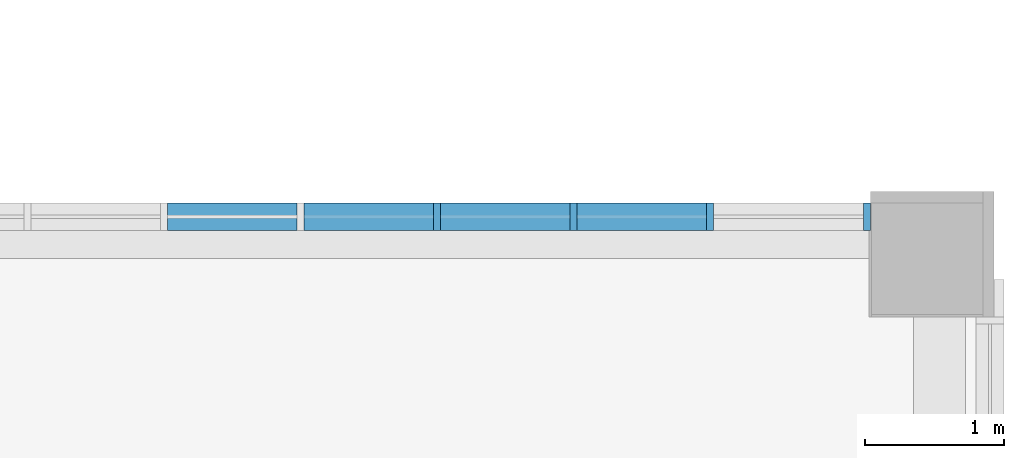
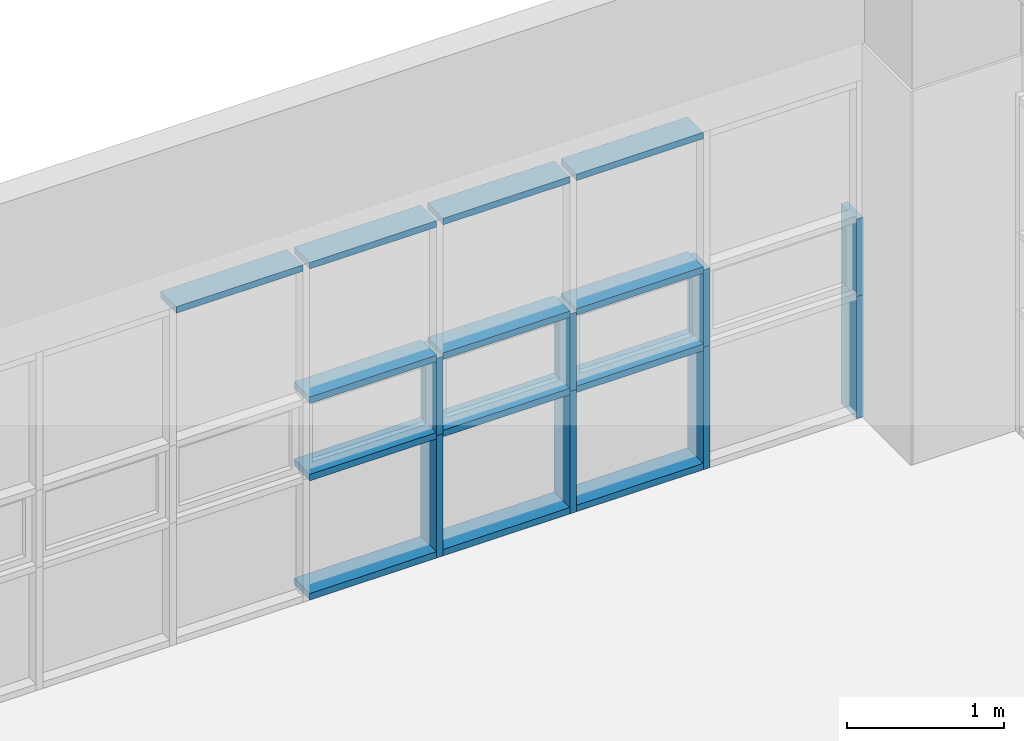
# One storey, part 26 of 76: 21 members, 1 element without a shape of its own.
"""IFC2X3 building model written with IfcOpenShell, lengths in millimetres."""

from ifc_helpers import new_model, entity, si_unit, converted_unit, derived_unit, direction, frame, origin, origin_2d_with_axis, place, context, subcontext, project, spatial, rectangle, extrude, source, transform, mapped, material, type_object, type_shapes, element, aggregate, save


model = new_model("IFC2X3")

# Units and contexts
model_context = context("Model", 3, precision=0.01, world=origin(), true_north=direction((6.123031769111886e-17, 1.0)))
body_context = subcontext(model_context, "Body", "Model", "MODEL_VIEW")
ifc_project = project(units=[si_unit("LENGTHUNIT", "METRE", prefix="MILLI"), si_unit("AREAUNIT", "SQUARE_METRE"), si_unit("VOLUMEUNIT", "CUBIC_METRE"), converted_unit("PLANEANGLEUNIT", "DEGREE", entity("IfcRatioMeasure", 0.017453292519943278), si_unit("PLANEANGLEUNIT", "RADIAN"), dimensions=[0, 0, 0, 0, 0, 0, 0]), si_unit("MASSUNIT", "GRAM", prefix="KILO"), derived_unit("MASSDENSITYUNIT", [(si_unit("MASSUNIT", "GRAM", prefix="KILO"), 1), (si_unit("LENGTHUNIT", "METRE"), -3)]), derived_unit("MOMENTOFINERTIAUNIT", [(si_unit("LENGTHUNIT", "METRE"), 4)]), si_unit("TIMEUNIT", "SECOND"), si_unit("FREQUENCYUNIT", "HERTZ"), si_unit("THERMODYNAMICTEMPERATUREUNIT", "DEGREE_CELSIUS"), derived_unit("THERMALTRANSMITTANCEUNIT", [(si_unit("MASSUNIT", "GRAM", prefix="KILO"), 1), (si_unit("THERMODYNAMICTEMPERATUREUNIT", "KELVIN"), -1), (si_unit("TIMEUNIT", "SECOND"), -3)]), derived_unit("VOLUMETRICFLOWRATEUNIT", [(si_unit("LENGTHUNIT", "METRE"), 3), (si_unit("TIMEUNIT", "SECOND"), -1)]), derived_unit("MASSFLOWRATEUNIT", [(si_unit("MASSUNIT", "GRAM", prefix="KILO"), 1), (si_unit("TIMEUNIT", "SECOND"), -1)]), derived_unit("ROTATIONALFREQUENCYUNIT", [(si_unit("TIMEUNIT", "SECOND"), -1)]), si_unit("ELECTRICCURRENTUNIT", "AMPERE"), si_unit("ELECTRICVOLTAGEUNIT", "VOLT"), si_unit("POWERUNIT", "WATT"), si_unit("FORCEUNIT", "NEWTON", prefix="KILO"), si_unit("ILLUMINANCEUNIT", "LUX"), si_unit("LUMINOUSFLUXUNIT", "LUMEN"), si_unit("LUMINOUSINTENSITYUNIT", "CANDELA"), derived_unit("USERDEFINED", [(si_unit("MASSUNIT", "GRAM", prefix="KILO"), -1), (si_unit("LENGTHUNIT", "METRE"), -2), (si_unit("TIMEUNIT", "SECOND"), 3), (si_unit("LUMINOUSFLUXUNIT", "LUMEN"), 1)]), derived_unit("SOUNDPOWERUNIT", [(si_unit("MASSUNIT", "GRAM", prefix="KILO"), 1), (si_unit("LENGTHUNIT", "METRE"), 2), (si_unit("TIMEUNIT", "SECOND"), -3)]), derived_unit("SOUNDPRESSUREUNIT", [(si_unit("MASSUNIT", "GRAM", prefix="KILO"), 1), (si_unit("LENGTHUNIT", "METRE"), -1), (si_unit("TIMEUNIT", "SECOND"), -2)]), derived_unit("LINEARVELOCITYUNIT", [(si_unit("LENGTHUNIT", "METRE"), 1), (si_unit("TIMEUNIT", "SECOND"), -1)]), si_unit("PRESSUREUNIT", "PASCAL"), derived_unit("USERDEFINED", [(si_unit("LENGTHUNIT", "METRE"), -2), (si_unit("MASSUNIT", "GRAM", prefix="KILO"), 1), (si_unit("TIMEUNIT", "SECOND"), -2)]), derived_unit("LINEARFORCEUNIT", [(si_unit("MASSUNIT", "GRAM", prefix="KILO"), 1), (si_unit("LENGTHUNIT", "METRE"), 1), (si_unit("TIMEUNIT", "SECOND"), -2), (si_unit("LENGTHUNIT", "METRE"), -1)]), derived_unit("PLANARFORCEUNIT", [(si_unit("MASSUNIT", "GRAM", prefix="KILO"), 1), (si_unit("LENGTHUNIT", "METRE"), 1), (si_unit("TIMEUNIT", "SECOND"), -2), (si_unit("LENGTHUNIT", "METRE"), -2)])], contexts=[model_context])

# Site, building, storey
site_placement = place(None, frame((-14167.972527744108, -657.2125860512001, 0.0)))
site = spatial("IfcSite", under=ifc_project, at=site_placement, Name="Default", CompositionType="ELEMENT")
building_placement = place(site_placement, origin())
building = spatial("IfcBuilding", under=site, at=building_placement, Name="Sample Building", CompositionType="ELEMENT")
storey_placement = place(building_placement, frame((0.0, 0.0, 9300.0)))
storey = spatial("IfcBuildingStorey", under=building, at=storey_placement, Name="지상 3층", CompositionType="ELEMENT", Elevation=9300.000000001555)

# Curtain wall, members
curtain_wall_type = type_object("IfcCurtainWallType", Name="커튼월:CW112-스테인리스 스틸 커튼월", PredefinedType="NOTDEFINED")
curtain_wall_placement = place(storey_placement, frame((0.0, 0.0, -9300.0)))
curtain_wall = element("IfcCurtainWall", 1, at=curtain_wall_placement, inside=storey, type_object=curtain_wall_type, Name="커튼월:CW112-스테인리스 스틸 커튼월", ObjectType="커튼월:CW112-스테인리스 스틸 커튼월")
ifc_material = material(Name="<Unnamed>")
member_type_1 = type_object("IfcMemberType", Name="직사각형 멀리언:CW200-직사각형 멀리언 50x200mm", PredefinedType="MULLION", material=ifc_material)
shared_shape_1 = source(origin(), body_context, "Body", "SweptSolid", [
    extrude(rectangle(XDim=200.0, YDim=50.0, at=origin_2d_with_axis()), frame((-25.0, 0.0, -600.0), z_axis=(0.0, 0.0, 1.0), x_axis=(0.0, -1.0, 0.0)), (0.0, 0.0, 1.0), 600.0),
])
type_shapes(member_type_1, [shared_shape_1])
member_1_placement = place(curtain_wall_placement, frame((50658.981214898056, 29157.212295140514, 10930.0)))
member_1 = element("IfcMember", 2, at=member_1_placement, type_object=member_type_1, material=ifc_material, Name="직사각형 멀리언:CW200-직사각형 멀리언 50x200mm", ObjectType="직사각형 멀리언:CW200-직사각형 멀리언 50x200mm", context=body_context, shape_type="MappedRepresentation", body=[
    mapped(shared_shape_1, transform((0.0, 0.0, 0.0), scale=1.0)),
])
member_type_2 = type_object("IfcMemberType", Name="직사각형 멀리언:CW200-직사각형 멀리언 50x200mm", PredefinedType="MULLION", material=ifc_material)
shared_shape_2 = source(origin(), body_context, "Body", "SweptSolid", [
    extrude(rectangle(XDim=200.0, YDim=50.0, at=origin_2d_with_axis()), frame((0.0, 0.0, -600.0), z_axis=(0.0, 0.0, 1.0), x_axis=(0.0, -1.0, 0.0)), (0.0, 0.0, 1.0), 600.0),
])
type_shapes(member_type_2, [shared_shape_2])
member_2_placement = place(curtain_wall_placement, frame((49507.96556020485, 29157.212295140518, 10330.0), z_axis=(0.0, 0.0, -1.0), x_axis=(-1.0, 0.0, 0.0)))
member_2 = element("IfcMember", 3, at=member_2_placement, type_object=member_type_2, material=ifc_material, Name="직사각형 멀리언:CW200-직사각형 멀리언 50x200mm", ObjectType="직사각형 멀리언:CW200-직사각형 멀리언 50x200mm", context=body_context, shape_type="MappedRepresentation", body=[
    mapped(shared_shape_2, transform((0.0, 0.0, 0.0), scale=1.0)),
])
member_3_placement = place(curtain_wall_placement, frame((48527.96642584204, 29157.212295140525, 10330.0), z_axis=(0.0, 0.0, -1.0), x_axis=(-1.0, 0.0, 0.0)))
member_3 = element("IfcMember", 4, at=member_3_placement, type_object=member_type_2, material=ifc_material, Name="직사각형 멀리언:CW200-직사각형 멀리언 50x200mm", ObjectType="직사각형 멀리언:CW200-직사각형 멀리언 50x200mm", context=body_context, shape_type="MappedRepresentation", body=[
    mapped(shared_shape_2, transform((0.0, 0.0, 0.0), scale=1.0)),
])
member_4_placement = place(curtain_wall_placement, frame((47547.967291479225, 29157.212295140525, 10330.0), z_axis=(0.0, 0.0, -1.0), x_axis=(-1.0, 0.0, 0.0)))
member_4 = element("IfcMember", 5, at=member_4_placement, type_object=member_type_2, material=ifc_material, Name="직사각형 멀리언:CW200-직사각형 멀리언 50x200mm", ObjectType="직사각형 멀리언:CW200-직사각형 멀리언 50x200mm", context=body_context, shape_type="MappedRepresentation", body=[
    mapped(shared_shape_2, transform((0.0, 0.0, 0.0), scale=1.0)),
])
member_type_3 = type_object("IfcMemberType", Name="직사각형 멀리언:CW200-직사각형 멀리언 50x200mm", PredefinedType="MULLION", material=ifc_material)
shared_shape_3 = source(origin(), body_context, "Body", "SweptSolid", [
    extrude(rectangle(XDim=200.0, YDim=50.0, at=origin_2d_with_axis()), frame((0.0, 0.0, -950.0), z_axis=(0.0, 0.0, 1.0), x_axis=(0.0, -1.0, 0.0)), (0.0, 0.0, 1.0), 949.9999999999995),
])
type_shapes(member_type_3, [shared_shape_3])
member_5_placement = place(curtain_wall_placement, frame((49507.96556020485, 29157.212295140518, 9380.0), z_axis=(0.0, 0.0, -1.0), x_axis=(-1.0, 0.0, 0.0)))
member_5 = element("IfcMember", 6, at=member_5_placement, type_object=member_type_3, material=ifc_material, Name="직사각형 멀리언:CW200-직사각형 멀리언 50x200mm", ObjectType="직사각형 멀리언:CW200-직사각형 멀리언 50x200mm", context=body_context, shape_type="MappedRepresentation", body=[
    mapped(shared_shape_3, transform((0.0, 0.0, 0.0), scale=1.0)),
])
member_6_placement = place(curtain_wall_placement, frame((48527.96642584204, 29157.212295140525, 9380.0), z_axis=(0.0, 0.0, -1.0), x_axis=(-1.0, 0.0, 0.0)))
member_6 = element("IfcMember", 7, at=member_6_placement, type_object=member_type_3, material=ifc_material, Name="직사각형 멀리언:CW200-직사각형 멀리언 50x200mm", ObjectType="직사각형 멀리언:CW200-직사각형 멀리언 50x200mm", context=body_context, shape_type="MappedRepresentation", body=[
    mapped(shared_shape_3, transform((0.0, 0.0, 0.0), scale=1.0)),
])
member_7_placement = place(curtain_wall_placement, frame((47547.967291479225, 29157.212295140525, 9380.0), z_axis=(0.0, 0.0, -1.0), x_axis=(-1.0, 0.0, 0.0)))
member_7 = element("IfcMember", 8, at=member_7_placement, type_object=member_type_3, material=ifc_material, Name="직사각형 멀리언:CW200-직사각형 멀리언 50x200mm", ObjectType="직사각형 멀리언:CW200-직사각형 멀리언 50x200mm", context=body_context, shape_type="MappedRepresentation", body=[
    mapped(shared_shape_3, transform((0.0, 0.0, 0.0), scale=1.0)),
])
member_type_4 = type_object("IfcMemberType", Name="직사각형 멀리언:CW200-직사각형 멀리언 50x200mm", PredefinedType="MULLION", material=ifc_material)
shared_shape_4 = source(origin(), body_context, "Body", "SweptSolid", [
    extrude(rectangle(XDim=200.0, YDim=50.0, at=origin_2d_with_axis()), frame((-25.0, 0.0, -950.0), z_axis=(0.0, 0.0, 1.0), x_axis=(0.0, -1.0, 0.0)), (0.0, 0.0, 1.0), 950.0000000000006),
])
type_shapes(member_type_4, [shared_shape_4])
member_8_placement = place(curtain_wall_placement, frame((50658.981214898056, 29157.212295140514, 10330.0)))
member_8 = element("IfcMember", 9, at=member_8_placement, type_object=member_type_4, material=ifc_material, Name="직사각형 멀리언:CW200-직사각형 멀리언 50x200mm", ObjectType="직사각형 멀리언:CW200-직사각형 멀리언 50x200mm", context=body_context, shape_type="MappedRepresentation", body=[
    mapped(shared_shape_4, transform((0.0, 0.0, 0.0), scale=1.0)),
])
member_type_5 = type_object("IfcMemberType", Name="직사각형 멀리언:CW200-직사각형 멀리언 50x200mm", PredefinedType="MULLION", material=ifc_material)
shared_shape_5 = source(origin(), body_context, "Body", "SweptSolid", [
    extrude(rectangle(XDim=200.0, YDim=50.0, at=origin_2d_with_axis()), frame((-25.0, 0.0, -929.9991343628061), z_axis=(0.0, 0.0, 1.0), x_axis=(0.0, -1.0, 0.0)), (0.0, 0.0, 1.0), 929.9991343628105),
])
type_shapes(member_type_5, [shared_shape_5])
member_9_placement = place(curtain_wall_placement, frame((49482.965560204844, 29157.212295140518, 9380.0), z_axis=(1.0, 0.0, 0.0), x_axis=(0.0, 0.0, -1.0)))
member_9 = element("IfcMember", 10, at=member_9_placement, type_object=member_type_5, material=ifc_material, Name="직사각형 멀리언:CW200-직사각형 멀리언 50x200mm", ObjectType="직사각형 멀리언:CW200-직사각형 멀리언 50x200mm", context=body_context, shape_type="MappedRepresentation", body=[
    mapped(shared_shape_5, transform((0.0, 0.0, 0.0), scale=1.0)),
])
member_10_placement = place(curtain_wall_placement, frame((48502.96642584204, 29157.212295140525, 9380.0), z_axis=(1.0, 0.0, 0.0), x_axis=(0.0, 0.0, -1.0)))
member_10 = element("IfcMember", 11, at=member_10_placement, type_object=member_type_5, material=ifc_material, Name="직사각형 멀리언:CW200-직사각형 멀리언 50x200mm", ObjectType="직사각형 멀리언:CW200-직사각형 멀리언 50x200mm", context=body_context, shape_type="MappedRepresentation", body=[
    mapped(shared_shape_5, transform((0.0, 0.0, 0.0), scale=1.0)),
])
member_11_placement = place(curtain_wall_placement, frame((47522.967291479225, 29157.212295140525, 9380.0), z_axis=(1.0, 0.0, 0.0), x_axis=(0.0, 0.0, -1.0)))
member_11 = element("IfcMember", 12, at=member_11_placement, type_object=member_type_5, material=ifc_material, Name="직사각형 멀리언:CW200-직사각형 멀리언 50x200mm", ObjectType="직사각형 멀리언:CW200-직사각형 멀리언 50x200mm", context=body_context, shape_type="MappedRepresentation", body=[
    mapped(shared_shape_5, transform((0.0, 0.0, 0.0), scale=1.0)),
])
member_type_6 = type_object("IfcMemberType", Name="직사각형 멀리언:CW200-직사각형 멀리언 50x200mm", PredefinedType="MULLION", material=ifc_material)
shared_shape_6 = source(origin(), body_context, "Body", "SweptSolid", [
    extrude(rectangle(XDim=200.0, YDim=50.0, at=origin_2d_with_axis()), frame((0.0, 0.0, -929.9991343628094), z_axis=(0.0, 0.0, 1.0), x_axis=(0.0, -1.0, 0.0)), (0.0, 0.0, 1.0), 929.9991343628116),
])
type_shapes(member_type_6, [shared_shape_6])
member_12_placement = place(curtain_wall_placement, frame((48552.96642584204, 29157.212295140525, 10330.0), z_axis=(-1.0, 0.0, 0.0), x_axis=(0.0, 0.0, 1.0)))
member_12 = element("IfcMember", 13, at=member_12_placement, type_object=member_type_6, material=ifc_material, Name="직사각형 멀리언:CW200-직사각형 멀리언 50x200mm", ObjectType="직사각형 멀리언:CW200-직사각형 멀리언 50x200mm", context=body_context, shape_type="MappedRepresentation", body=[
    mapped(shared_shape_6, transform((0.0, 0.0, 0.0), scale=1.0)),
])
member_13_placement = place(curtain_wall_placement, frame((48552.96642584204, 29157.212295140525, 10930.0), z_axis=(-1.0, 0.0, 0.0), x_axis=(0.0, 0.0, 1.0)))
member_13 = element("IfcMember", 14, at=member_13_placement, type_object=member_type_6, material=ifc_material, Name="직사각형 멀리언:CW200-직사각형 멀리언 50x200mm", ObjectType="직사각형 멀리언:CW200-직사각형 멀리언 50x200mm", context=body_context, shape_type="MappedRepresentation", body=[
    mapped(shared_shape_6, transform((0.0, 0.0, 0.0), scale=1.0)),
])
member_14_placement = place(curtain_wall_placement, frame((47572.96729147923, 29157.212295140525, 10330.0), z_axis=(-1.0, 0.0, 0.0), x_axis=(0.0, 0.0, 1.0)))
member_14 = element("IfcMember", 15, at=member_14_placement, type_object=member_type_6, material=ifc_material, Name="직사각형 멀리언:CW200-직사각형 멀리언 50x200mm", ObjectType="직사각형 멀리언:CW200-직사각형 멀리언 50x200mm", context=body_context, shape_type="MappedRepresentation", body=[
    mapped(shared_shape_6, transform((0.0, 0.0, 0.0), scale=1.0)),
])
member_15_placement = place(curtain_wall_placement, frame((47572.96729147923, 29157.212295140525, 10930.0), z_axis=(-1.0, 0.0, 0.0), x_axis=(0.0, 0.0, 1.0)))
member_15 = element("IfcMember", 16, at=member_15_placement, type_object=member_type_6, material=ifc_material, Name="직사각형 멀리언:CW200-직사각형 멀리언 50x200mm", ObjectType="직사각형 멀리언:CW200-직사각형 멀리언 50x200mm", context=body_context, shape_type="MappedRepresentation", body=[
    mapped(shared_shape_6, transform((0.0, 0.0, 0.0), scale=1.0)),
])
member_16_placement = place(curtain_wall_placement, frame((46592.96815711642, 29157.21229514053, 10330.0), z_axis=(-1.0, 0.0, 0.0), x_axis=(0.0, 0.0, 1.0)))
member_16 = element("IfcMember", 17, at=member_16_placement, type_object=member_type_6, material=ifc_material, Name="직사각형 멀리언:CW200-직사각형 멀리언 50x200mm", ObjectType="직사각형 멀리언:CW200-직사각형 멀리언 50x200mm", context=body_context, shape_type="MappedRepresentation", body=[
    mapped(shared_shape_6, transform((0.0, 0.0, 0.0), scale=1.0)),
])
member_17_placement = place(curtain_wall_placement, frame((46592.96815711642, 29157.21229514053, 10930.0), z_axis=(-1.0, 0.0, 0.0), x_axis=(0.0, 0.0, 1.0)))
member_17 = element("IfcMember", 18, at=member_17_placement, type_object=member_type_6, material=ifc_material, Name="직사각형 멀리언:CW200-직사각형 멀리언 50x200mm", ObjectType="직사각형 멀리언:CW200-직사각형 멀리언 50x200mm", context=body_context, shape_type="MappedRepresentation", body=[
    mapped(shared_shape_6, transform((0.0, 0.0, 0.0), scale=1.0)),
])
member_type_7 = type_object("IfcMemberType", Name="직사각형 멀리언:CW200-직사각형 멀리언 50x200mm", PredefinedType="MULLION", material=ifc_material)
shared_shape_7 = source(origin(), body_context, "Body", "SweptSolid", [
    extrude(rectangle(XDim=200.0, YDim=50.0, at=origin_2d_with_axis()), frame((-25.0, 0.0, -929.9991343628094), z_axis=(0.0, 0.0, 1.0), x_axis=(0.0, -1.0, 0.0)), (0.0, 0.0, 1.0), 929.9991343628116),
])
type_shapes(member_type_7, [shared_shape_7])
member_18_placement = place(curtain_wall_placement, frame((48552.96642584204, 29157.212295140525, 12000.0), z_axis=(-1.0, 0.0, 0.0), x_axis=(0.0, 0.0, 1.0)))
member_18 = element("IfcMember", 19, at=member_18_placement, type_object=member_type_7, material=ifc_material, Name="직사각형 멀리언:CW200-직사각형 멀리언 50x200mm", ObjectType="직사각형 멀리언:CW200-직사각형 멀리언 50x200mm", context=body_context, shape_type="MappedRepresentation", body=[
    mapped(shared_shape_7, transform((0.0, 0.0, 0.0), scale=1.0)),
])
member_19_placement = place(curtain_wall_placement, frame((47572.96729147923, 29157.212295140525, 12000.0), z_axis=(-1.0, 0.0, 0.0), x_axis=(0.0, 0.0, 1.0)))
member_19 = element("IfcMember", 20, at=member_19_placement, type_object=member_type_7, material=ifc_material, Name="직사각형 멀리언:CW200-직사각형 멀리언 50x200mm", ObjectType="직사각형 멀리언:CW200-직사각형 멀리언 50x200mm", context=body_context, shape_type="MappedRepresentation", body=[
    mapped(shared_shape_7, transform((0.0, 0.0, 0.0), scale=1.0)),
])
member_20_placement = place(curtain_wall_placement, frame((46592.96815711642, 29157.21229514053, 12000.0), z_axis=(-1.0, 0.0, 0.0), x_axis=(0.0, 0.0, 1.0)))
member_20 = element("IfcMember", 21, at=member_20_placement, type_object=member_type_7, material=ifc_material, Name="직사각형 멀리언:CW200-직사각형 멀리언 50x200mm", ObjectType="직사각형 멀리언:CW200-직사각형 멀리언 50x200mm", context=body_context, shape_type="MappedRepresentation", body=[
    mapped(shared_shape_7, transform((0.0, 0.0, 0.0), scale=1.0)),
])
member_21_placement = place(curtain_wall_placement, frame((45612.969022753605, 29157.212295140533, 12000.0), z_axis=(-1.0, 0.0, 0.0), x_axis=(0.0, 0.0, 1.0)))
member_21 = element("IfcMember", 22, at=member_21_placement, type_object=member_type_7, material=ifc_material, Name="직사각형 멀리언:CW200-직사각형 멀리언 50x200mm", ObjectType="직사각형 멀리언:CW200-직사각형 멀리언 50x200mm", context=body_context, shape_type="MappedRepresentation", body=[
    mapped(shared_shape_7, transform((0.0, 0.0, 0.0), scale=1.0)),
])
aggregate(curtain_wall, [member_8, member_1, member_9, member_12, member_13, member_5, member_2, member_18, member_10, member_14, member_15, member_6, member_3, member_19, member_11, member_16, member_17, member_7, member_4, member_20, member_21])

save(model, "model.ifc")
